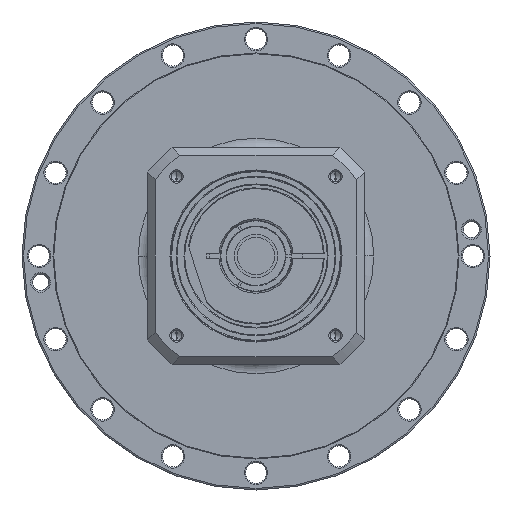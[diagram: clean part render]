
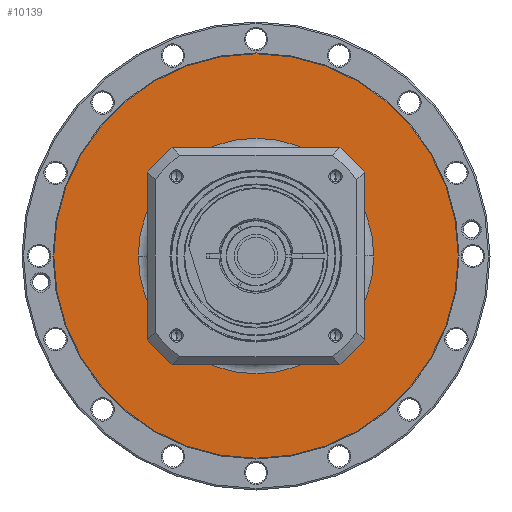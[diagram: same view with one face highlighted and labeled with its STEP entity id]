
A CAD part, left-side view. The second image highlights one B-rep face of the part: STEP entity #10139.
In plain terms, the highlighted planar face has unit normal (-1, 0, 0) as drawn and (1, 0, 0) by its records, which use the part's own axes.
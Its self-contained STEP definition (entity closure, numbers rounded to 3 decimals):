
#9170=CARTESIAN_POINT('',(-11.5,0.,0.));
#9171=DIRECTION('',(-1.,0.,0.));
#9172=DIRECTION('',(0.,-1.,0.));
#9173=AXIS2_PLACEMENT_3D('',#9170,#9171,#9172);
#9175=CARTESIAN_POINT('',(-11.5,0.,0.));
#9176=DIRECTION('',(-1.,0.,0.));
#9177=DIRECTION('',(0.,1.,0.));
#9178=AXIS2_PLACEMENT_3D('',#9175,#9176,#9177);
#9180=CARTESIAN_POINT('',(-11.5,0.,0.));
#9181=DIRECTION('',(-1.,0.,0.));
#9182=DIRECTION('',(0.,-1.,0.));
#9183=AXIS2_PLACEMENT_3D('',#9180,#9181,#9182);
#9185=CARTESIAN_POINT('',(-11.5,0.,0.));
#9186=DIRECTION('',(-1.,0.,0.));
#9187=DIRECTION('',(0.,1.,0.));
#9188=AXIS2_PLACEMENT_3D('',#9185,#9186,#9187);
#9418=CARTESIAN_POINT('',(-11.5,-130.5,0.));
#9419=CARTESIAN_POINT('',(-11.5,130.5,0.));
#9420=VERTEX_POINT('',#9418);
#9421=VERTEX_POINT('',#9419);
#9434=CARTESIAN_POINT('',(-11.5,-76.,0.));
#9435=CARTESIAN_POINT('',(-11.5,76.,0.));
#9436=VERTEX_POINT('',#9434);
#9437=VERTEX_POINT('',#9435);
#10124=CARTESIAN_POINT('',(-11.5,0.,0.));
#10125=DIRECTION('',(1.,0.,0.));
#10126=DIRECTION('',(0.,-1.,0.));
#10127=AXIS2_PLACEMENT_3D('',#10124,#10125,#10126);
#10128=PLANE('',#10127);
#10129=ORIENTED_EDGE('',*,*,#10080,.T.);
#10130=ORIENTED_EDGE('',*,*,#10065,.T.);
#10131=EDGE_LOOP('',(#10129,#10130));
#10132=FACE_OUTER_BOUND('',#10131,.F.);
#10134=ORIENTED_EDGE('',*,*,#10133,.F.);
#10136=ORIENTED_EDGE('',*,*,#10135,.F.);
#10137=EDGE_LOOP('',(#10134,#10136));
#10138=FACE_BOUND('',#10137,.F.);
#10139=ADVANCED_FACE('',(#10132,#10138),#10128,.T.);
#9174=CIRCLE('',#9173,76.);
#9179=CIRCLE('',#9178,76.);
#9184=CIRCLE('',#9183,130.5);
#9189=CIRCLE('',#9188,130.5);
#10065=EDGE_CURVE('',#9421,#9420,#9189,.T.);
#10080=EDGE_CURVE('',#9420,#9421,#9184,.T.);
#10133=EDGE_CURVE('',#9436,#9437,#9174,.T.);
#10135=EDGE_CURVE('',#9437,#9436,#9179,.T.);
